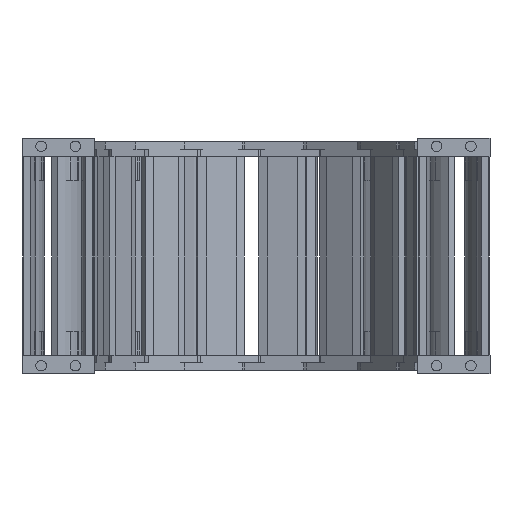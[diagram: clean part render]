
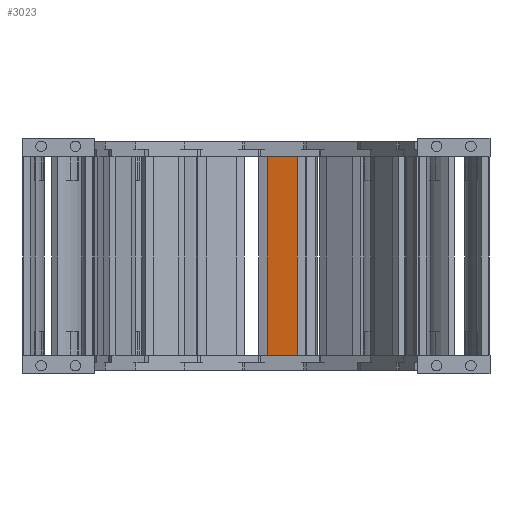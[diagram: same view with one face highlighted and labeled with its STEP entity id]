
A CAD part, left-side view. The second image highlights one B-rep face of the part: STEP entity #3023.
In plain terms, the highlighted planar face has unit normal (-0.986, 0.164, 0) as drawn and (0, 1, 0) by its records, which use the part's own axes.
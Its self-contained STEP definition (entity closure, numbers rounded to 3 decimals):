
#2766=DIRECTION('',(1.,0.,0.));
#2767=VECTOR('',#2766,23.);
#2768=CARTESIAN_POINT('',(-11.5,3.,137.8));
#2769=LINE('',#2768,#2767);
#2815=DIRECTION('',(0.,0.,-1.));
#2816=VECTOR('',#2815,150.3);
#2817=CARTESIAN_POINT('',(11.5,3.,137.8));
#2818=LINE('',#2817,#2816);
#2837=DIRECTION('',(-1.,0.,0.));
#2838=VECTOR('',#2837,23.);
#2839=CARTESIAN_POINT('',(11.5,3.,-12.5));
#2840=LINE('',#2839,#2838);
#2851=DIRECTION('',(0.,0.,-1.));
#2852=VECTOR('',#2851,150.3);
#2853=CARTESIAN_POINT('',(-11.5,3.,137.8));
#2854=LINE('',#2853,#2852);
#2878=CARTESIAN_POINT('',(11.5,3.,137.8));
#2879=VERTEX_POINT('',#2878);
#2882=CARTESIAN_POINT('',(-11.5,3.,137.8));
#2883=VERTEX_POINT('',#2882);
#2890=CARTESIAN_POINT('',(11.5,3.,-12.5));
#2891=VERTEX_POINT('',#2890);
#2892=CARTESIAN_POINT('',(-11.5,3.,-12.5));
#2893=VERTEX_POINT('',#2892);
#3011=CARTESIAN_POINT('',(15.5,3.,87.8));
#3012=DIRECTION('',(0.,1.,0.));
#3013=DIRECTION('',(-1.,0.,0.));
#3014=AXIS2_PLACEMENT_3D('',#3011,#3012,#3013);
#3015=PLANE('',#3014);
#3017=ORIENTED_EDGE('',*,*,#3016,.T.);
#3018=ORIENTED_EDGE('',*,*,#2995,.F.);
#3019=ORIENTED_EDGE('',*,*,#2975,.F.);
#3020=ORIENTED_EDGE('',*,*,#2907,.F.);
#3021=EDGE_LOOP('',(#3017,#3018,#3019,#3020));
#3022=FACE_OUTER_BOUND('',#3021,.F.);
#3023=ADVANCED_FACE('',(#3022),#3015,.T.);
#2907=EDGE_CURVE('',#2883,#2879,#2769,.T.);
#2975=EDGE_CURVE('',#2879,#2891,#2818,.T.);
#2995=EDGE_CURVE('',#2891,#2893,#2840,.T.);
#3016=EDGE_CURVE('',#2883,#2893,#2854,.T.);
